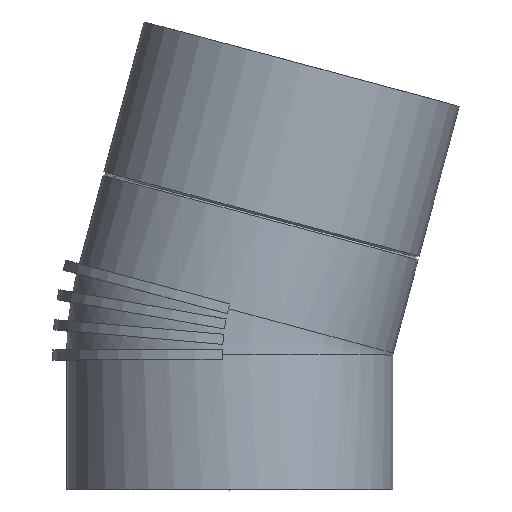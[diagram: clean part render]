
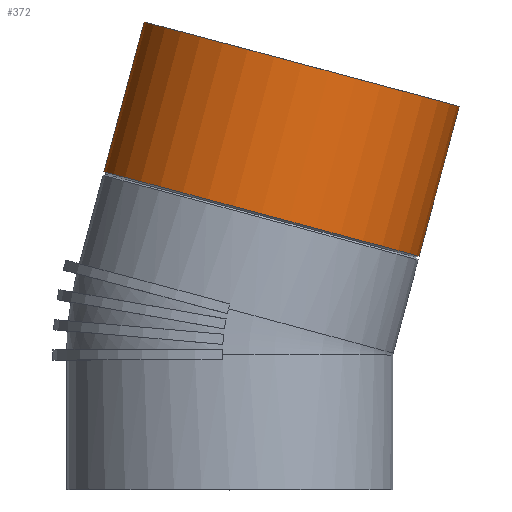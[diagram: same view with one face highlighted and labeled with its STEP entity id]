
A CAD part, top view. The second image highlights one B-rep face of the part: STEP entity #372.
In plain terms, the highlighted cylindrical face has radius 67.5 mm (diameter 135 mm), a full revolution.
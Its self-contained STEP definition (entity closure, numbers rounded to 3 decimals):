
#60=CYLINDRICAL_SURFACE($,#419,67.5);
#74=FACE_BOUND($,#132,.T.);
#96=FACE_OUTER_BOUND($,#131,.T.);
#131=EDGE_LOOP($,(#322));
#132=EDGE_LOOP($,(#323));
#134=CIRCLE($,#378,67.5);
#153=CIRCLE($,#418,67.5);
#155=VERTEX_POINT($,#518);
#188=VERTEX_POINT($,#1043);
#190=EDGE_CURVE($,#155,#155,#134,.T.);
#233=EDGE_CURVE($,#188,#188,#153,.T.);
#322=ORIENTED_EDGE($,*,*,#190,.T.);
#323=ORIENTED_EDGE($,*,*,#233,.T.);
#372=ADVANCED_FACE($,(#96,#74),#60,.T.);
#378=AXIS2_PLACEMENT_3D($,#519,#426,#427);
#418=AXIS2_PLACEMENT_3D($,#1044,#510,#511);
#419=AXIS2_PLACEMENT_3D($,#1045,#512,#513);
#426=DIRECTION('center_axis',(0.259,0.966,0.));
#427=DIRECTION('ref_axis',(0.966,-0.259,0.));
#510=DIRECTION('center_axis',(-0.259,-0.966,0.));
#511=DIRECTION('ref_axis',(0.966,-0.259,0.));
#512=DIRECTION('center_axis',(-0.259,-0.966,0.));
#513=DIRECTION('ref_axis',(0.966,-0.259,0.));
#518=CARTESIAN_POINT('',(78.343,96.579,0.));
#519=CARTESIAN_POINT('Origin',(13.143,114.049,0.));
#1043=CARTESIAN_POINT('',(94.964,158.611,0.));
#1044=CARTESIAN_POINT('Origin',(29.764,176.081,0.));
#1045=CARTESIAN_POINT('Origin',(16.083,125.023,0.));
